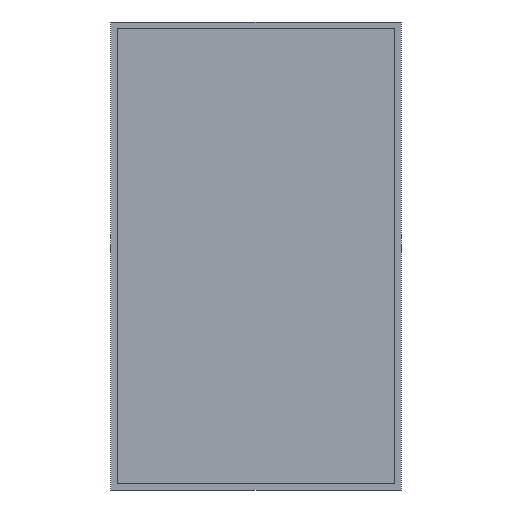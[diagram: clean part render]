
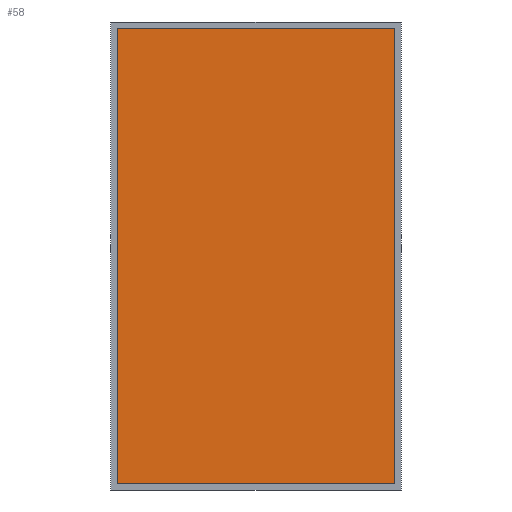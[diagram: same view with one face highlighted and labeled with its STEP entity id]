
A CAD part, front view. The second image highlights one B-rep face of the part: STEP entity #58.
In plain terms, the highlighted planar face has unit normal (0, -1, 0).
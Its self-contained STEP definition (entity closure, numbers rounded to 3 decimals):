
#58=ADVANCED_FACE('',(#90),#496,.T.);
#90=FACE_OUTER_BOUND('',#122,.T.);
#122=EDGE_LOOP('',(#168,#169,#170,#171));
#168=ORIENTED_EDGE('',*,*,#306,.F.);
#169=ORIENTED_EDGE('',*,*,#303,.F.);
#170=ORIENTED_EDGE('',*,*,#300,.F.);
#171=ORIENTED_EDGE('',*,*,#296,.F.);
#296=EDGE_CURVE('',#444,#445,#368,.T.);
#300=EDGE_CURVE('',#445,#448,#372,.T.);
#303=EDGE_CURVE('',#448,#450,#375,.T.);
#306=EDGE_CURVE('',#450,#444,#378,.T.);
#368=B_SPLINE_CURVE_WITH_KNOTS('',1,(#595,#596),.UNSPECIFIED.,.F.,.F.,(2,
2),(-486.,-336.),.UNSPECIFIED.);
#372=B_SPLINE_CURVE_WITH_KNOTS('',1,(#603,#604),.UNSPECIFIED.,.F.,.F.,(2,
2),(-336.,-243.),.UNSPECIFIED.);
#375=B_SPLINE_CURVE_WITH_KNOTS('',1,(#609,#610),.UNSPECIFIED.,.F.,.F.,(2,
2),(-243.,-93.),.UNSPECIFIED.);
#378=B_SPLINE_CURVE_WITH_KNOTS('',1,(#615,#616),.UNSPECIFIED.,.F.,.F.,(2,
2),(-93.,0.),.UNSPECIFIED.);
#444=VERTEX_POINT('',#587);
#445=VERTEX_POINT('',#588);
#448=VERTEX_POINT('',#591);
#450=VERTEX_POINT('',#593);
#496=PLANE('',#536);
#536=AXIS2_PLACEMENT_3D('',#585,#560,$);
#560=DIRECTION('',(0.,-1.,0.));
#585=CARTESIAN_POINT('',(1087.199,-223.5,0.));
#587=CARTESIAN_POINT('',(157.199,-223.5,0.));
#588=CARTESIAN_POINT('',(157.199,-223.5,1500.));
#591=CARTESIAN_POINT('',(1087.199,-223.5,1500.));
#593=CARTESIAN_POINT('',(1087.199,-223.5,0.));
#595=CARTESIAN_POINT('',(157.199,-223.5,0.));
#596=CARTESIAN_POINT('',(157.199,-223.5,1500.));
#603=CARTESIAN_POINT('',(157.199,-223.5,1500.));
#604=CARTESIAN_POINT('',(1087.199,-223.5,1500.));
#609=CARTESIAN_POINT('',(1087.199,-223.5,1500.));
#610=CARTESIAN_POINT('',(1087.199,-223.5,0.));
#615=CARTESIAN_POINT('',(1087.199,-223.5,0.));
#616=CARTESIAN_POINT('',(157.199,-223.5,0.));
